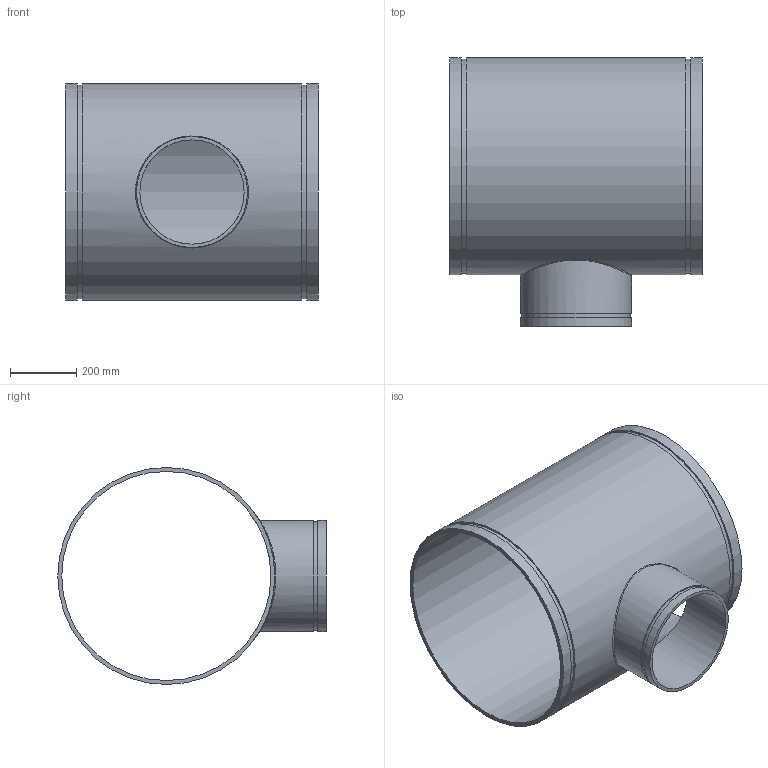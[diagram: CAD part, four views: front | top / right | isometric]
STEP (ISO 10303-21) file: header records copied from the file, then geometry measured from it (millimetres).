
FILE_DESCRIPTION(/* description */ ('VIC REDUCING TEE No 25-C','CAx-IF Rec.Pracs.---Representation and Presentation of Product Manufacturing Information (PMI)---4.0---2014-10-13'),/* implementation_level */ '2;1');
FILE_NAME(/* name */ 'C:\Users\Vjadhav\AppData\Roaming\Autodesk\ApplicationPlugins\Back Up\Victaulic_AWWA_Tee Reducing_No 25-C (DRG)\Victaulic_AWWA_Tee Reducing_No 25-C (DRG)_24.0x12.0 (600x300).stp',/* time_stamp */ '2020-08-18T18:18:57+06:00',/* author */ ('CORINNE GRAY'),/* organization */ ('Victaulic'),/* preprocessor_version */ 'ST-DEVELOPER v17.2',/* originating_system */ 'Autodesk Inventor 2019',/* authorisation */ '');
FILE_SCHEMA (('AP242_MANAGED_MODEL_BASED_3D_ENGINEERING_MIM_LF { 1 0 10303 442 1 1 4 }'));
Length unit declared in the file: inch
Products named in the file (1): 25C-24.0x12.0
Bounding box: 762 x 810.26 x 655.32 mm (x, y, z)
Volume: 18882940.8 mm3; surface area: 3386070.9 mm2
Topology: 1 solids, 1 shells, 20 faces, 44 edges, 33 vertices
Faces by surface type: cylinder 10, plane 9, bspline 1
Full cylindrical faces by diameter (mm): 314.96 x1, 327.812 x1, 335.28 x2, 631.444 x1, 645.312 x2, 655.32 x3
Entity records: 1030 total; most frequent: CARTESIAN_POINT 413, DIRECTION 134, ORIENTED_EDGE 88, AXIS2_PLACEMENT_3D 62, EDGE_CURVE 44, VERTEX_POINT 33, EDGE_LOOP 31, CIRCLE 29
